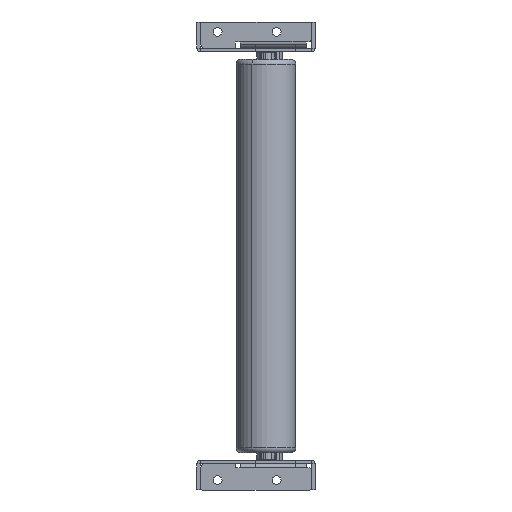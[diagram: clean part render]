
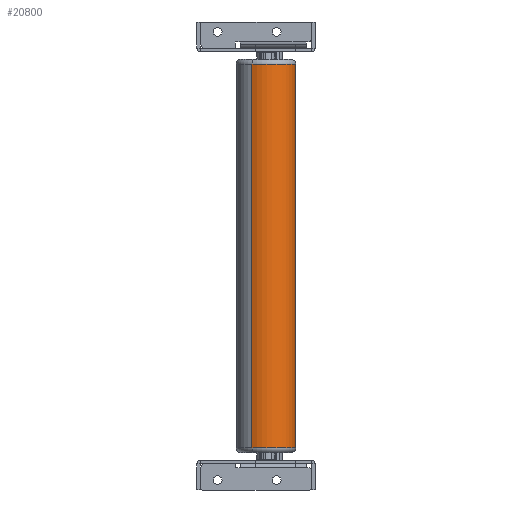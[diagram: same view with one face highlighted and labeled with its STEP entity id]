
A CAD part, left-side view. The second image highlights one B-rep face of the part: STEP entity #20800.
In plain terms, the highlighted cylindrical face has radius 30.25 mm (diameter 60.5 mm), a partial arc.
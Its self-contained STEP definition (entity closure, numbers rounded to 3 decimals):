
#1157 = CARTESIAN_POINT ( 'NONE',  ( -1536.768, -337.006, -464.445 ) ) ;
#4285 = VERTEX_POINT ( 'NONE', #26679 ) ;
#5197 = EDGE_LOOP ( 'NONE', ( #30221, #13971, #34350, #23155 ) ) ;
#5883 = CARTESIAN_POINT ( 'NONE',  ( -1509.986, -351.07, -469.445 ) ) ;
#6611 = DIRECTION ( 'NONE',  ( 0., 0., -1. ) ) ;
#6827 = VERTEX_POINT ( 'NONE', #37278 ) ;
#8152 = VECTOR ( 'NONE', #15244, 1000. ) ;
#8512 = LINE ( 'NONE', #14887, #15922 ) ;
#9074 = LINE ( 'NONE', #5883, #8152 ) ;
#10523 = DIRECTION ( 'NONE',  ( 0., 0., 1. ) ) ;
#10795 = CARTESIAN_POINT ( 'NONE',  ( -1509.986, -351.07, -74.445 ) ) ;
#10913 = DIRECTION ( 'NONE',  ( -0.885, 0.465, 0. ) ) ;
#11718 = EDGE_CURVE ( 'NONE', #38103, #6827, #12105, .T. ) ;
#12105 = CIRCLE ( 'NONE', #21000, 30.25 ) ;
#12984 = CARTESIAN_POINT ( 'NONE',  ( -1536.768, -337.006, -74.445 ) ) ;
#13304 = DIRECTION ( 'NONE',  ( 0.885, -0.465, 0. ) ) ;
#13971 = ORIENTED_EDGE ( 'NONE', *, *, #38670, .T. ) ;
#14664 = VERTEX_POINT ( 'NONE', #10795 ) ;
#14887 = CARTESIAN_POINT ( 'NONE',  ( -1563.55, -322.942, -469.445 ) ) ;
#15244 = DIRECTION ( 'NONE',  ( 0., 0., 1. ) ) ;
#15922 = VECTOR ( 'NONE', #27056, 1000. ) ;
#16789 = AXIS2_PLACEMENT_3D ( 'NONE', #17653, #29060, #10913 ) ;
#17653 = CARTESIAN_POINT ( 'NONE',  ( -1536.768, -337.006, -469.445 ) ) ;
#20800 = ADVANCED_FACE ( 'NONE', ( #38244 ), #23053, .T. ) ;
#21000 = AXIS2_PLACEMENT_3D ( 'NONE', #1157, #10523, #13304 ) ;
#23053 = CYLINDRICAL_SURFACE ( 'NONE', #16789, 30.25 ) ;
#23155 = ORIENTED_EDGE ( 'NONE', *, *, #26928, .F. ) ;
#23868 = CARTESIAN_POINT ( 'NONE',  ( -1563.55, -322.942, -464.445 ) ) ;
#26037 = AXIS2_PLACEMENT_3D ( 'NONE', #12984, #6611, #28331 ) ;
#26253 = EDGE_CURVE ( 'NONE', #14664, #4285, #34325, .T. ) ;
#26679 = CARTESIAN_POINT ( 'NONE',  ( -1563.55, -322.942, -74.445 ) ) ;
#26928 = EDGE_CURVE ( 'NONE', #38103, #4285, #8512, .T. ) ;
#27056 = DIRECTION ( 'NONE',  ( 0., 0., 1. ) ) ;
#28331 = DIRECTION ( 'NONE',  ( 0.885, -0.465, 0. ) ) ;
#29060 = DIRECTION ( 'NONE',  ( 0., 0., 1. ) ) ;
#30221 = ORIENTED_EDGE ( 'NONE', *, *, #11718, .T. ) ;
#34325 = CIRCLE ( 'NONE', #26037, 30.25 ) ;
#34350 = ORIENTED_EDGE ( 'NONE', *, *, #26253, .T. ) ;
#37278 = CARTESIAN_POINT ( 'NONE',  ( -1509.986, -351.07, -464.445 ) ) ;
#38103 = VERTEX_POINT ( 'NONE', #23868 ) ;
#38244 = FACE_OUTER_BOUND ( 'NONE', #5197, .T. ) ;
#38670 = EDGE_CURVE ( 'NONE', #6827, #14664, #9074, .T. ) ;
